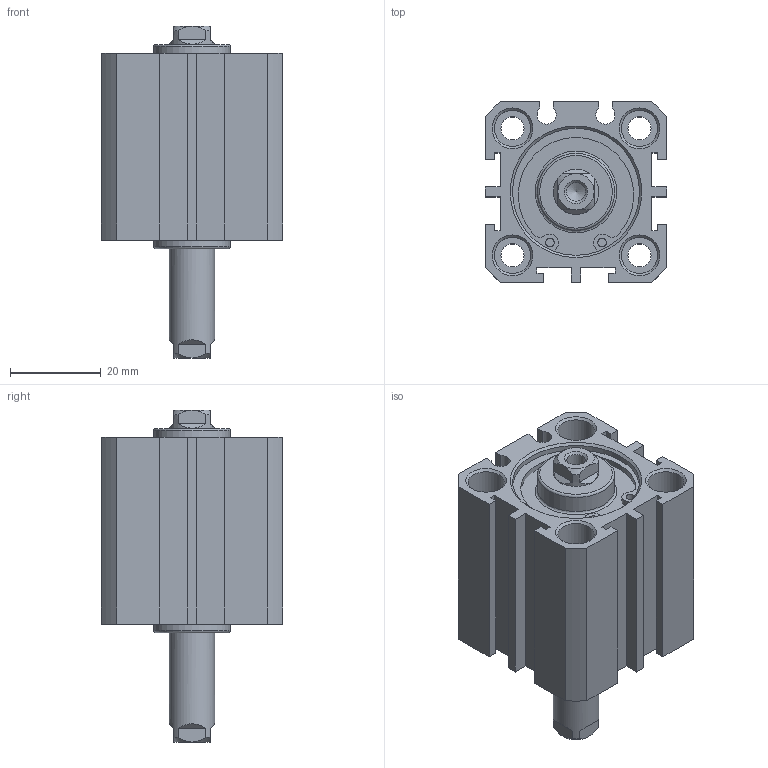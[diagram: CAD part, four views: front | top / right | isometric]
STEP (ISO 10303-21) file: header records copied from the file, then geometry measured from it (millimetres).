
FILE_DESCRIPTION((''),'2;1');
FILE_NAME('I:\3D電子目錄\氣缸\JDD\JDD\JDD25\JDD25x20.stp','2007-02-08T09:21:41',('662F206'),(''),'Autodesk Inventor 10','Autodesk Inventor 10','');
FILE_SCHEMA(('AUTOMOTIVE_DESIGN { 1 0 10303 214 1 1 1 1 }'));
Length unit declared in the file: millimetre
Products named in the file (3): JDD25; R 形環 28
Assembly tree (3 placements, depth 2):
  JDD25
    JDD25
    R 形環 28  x2
Bounding box: 40 x 40 x 73.2 mm (x, y, z)
Volume: 53926 mm3; surface area: 18873.5 mm2
Topology: 3 solids, 3 shells, 172 faces, 410 edges, 266 vertices
Faces by surface type: plane 92, cylinder 46, cone 22, bspline 10, torus 2
Full cylindrical faces by diameter (mm): 1.5 x2, 1.9 x4, 5.1 x4, 8 x8, 10 x2, 17 x2, 28 x4, 29.4 x2
Entity records: 4529 total; most frequent: CARTESIAN_POINT 950, DIRECTION 740, ORIENTED_EDGE 640, EDGE_CURVE 320, AXIS2_PLACEMENT_3D 280, EDGE_LOOP 244, VERTEX_POINT 236, VECTOR 180
